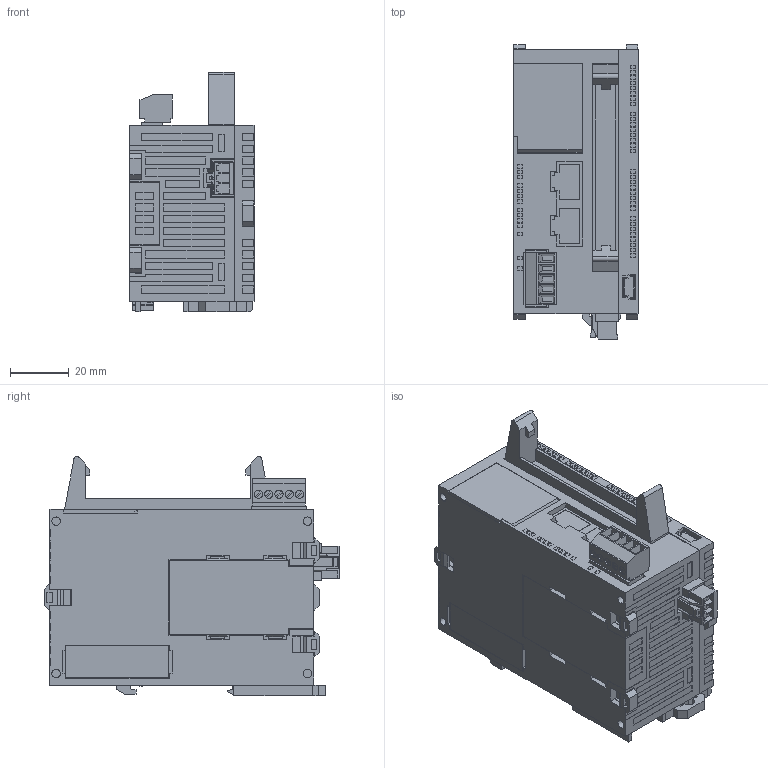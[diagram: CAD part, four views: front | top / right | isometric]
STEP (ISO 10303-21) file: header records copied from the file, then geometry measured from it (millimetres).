
FILE_DESCRIPTION (( 'STEP AP203' ), '1' );
FILE_NAME ('afp0hc32et_.STEP', '2017-08-29T10:09:56', ( '' ), ( '' ), 'SwSTEP 2.0', 'SolidWorks 2014', '' );
FILE_SCHEMA (( 'CONFIG_CONTROL_DESIGN' ));
Length unit declared in the file: millimetre
Products named in the file (10): afp0hc32et_; afp0h_cover_cn; afp0h_dinhook ; afp0h_afpg805; afp0h_expansionhook; afp0h_label; afp0h_terminal_5P; afp0h_cover_afp0hc32et; afp0h_cassette_cover; afp0h_afp0hc32et
Assembly tree (13 placements, depth 2):
  afp0hc32et_
    afp0h_afp0hc32et
    afp0h_expansionhook  x5
    afp0h_cover_cn
    afp0h_terminal_5P
    afp0h_dinhook 
    afp0h_cover_afp0hc32et
    afp0h_afpg805
    afp0h_label
    afp0h_cassette_cover
Bounding box: 42.48 x 100.6 x 81.6 mm (x, y, z)
Volume: 212097.5 mm3; surface area: 48667.9 mm2
Topology: 13 solids, 13 shells, 1591 faces, 4217 edges, 2797 vertices
Faces by surface type: plane 1536, cylinder 55
Entity records: 45891 total; most frequent: CARTESIAN_POINT 7983, ORIENTED_EDGE 7786, DIRECTION 6993, EDGE_CURVE 3893, VECTOR 3763, LINE 3763, VERTEX_POINT 2581, EDGE_LOOP 1634
